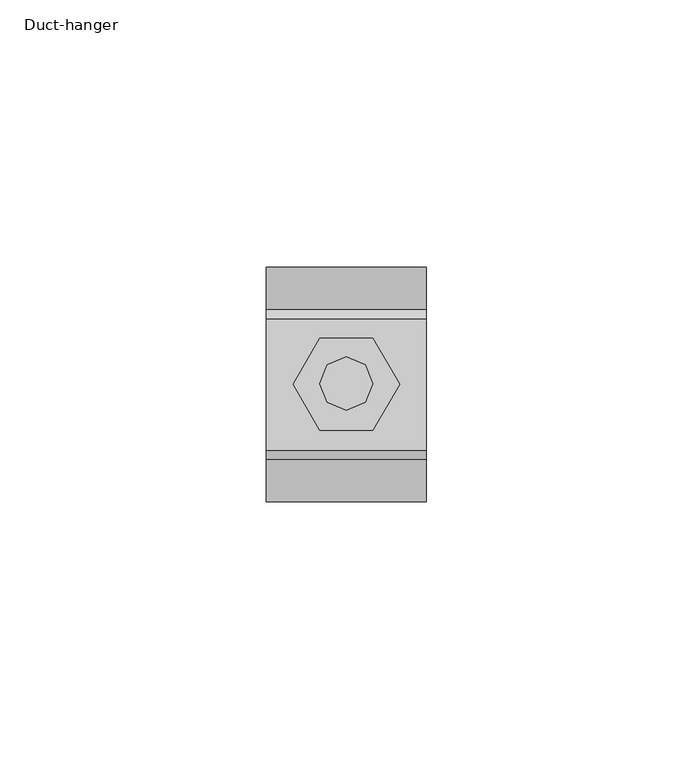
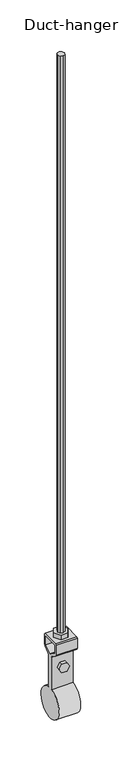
"""IFC4 building model written with IfcOpenShell, lengths in millimetres: proxy geometry, Duct-hanger : Φ44."""

from ifc_helpers import new_model, si_unit, point, frame, frame_2d, origin, place, context, project, spatial, polyline, circle_curve, trimmed, segment, composite_curve, outline, extrude, source, transform, mapped, element, save


def duct_hanger_ff72c5ab(model_context):
    return source(origin(), model_context, "Body", "SweptSolid", [
        extrude(outline(polyline([(3.5351563, 3.5351563), (5.0003052, 0.0), (3.5351563, -3.5351563), (0.0, -5.0), (-3.5354614, -3.5351563), (-5.0, 0.0), (-3.5354614, 3.5351563), (0.0, 5.0), (3.5351563, 3.5351563)])), frame((0.0, 0.0, -858.4967567), z_axis=(0.0, 0.0, 1.0), x_axis=(1.0, 0.0, 0.0)), (0.0, 0.0, 1.0), 858.4967567),
        extrude(outline(polyline([(5.0, 8.659668), (10.0, 0.0), (5.0, -8.659668), (-5.0, -8.659668), (-10.0, 0.0), (-5.0, 8.659668), (5.0, 8.659668)])), frame((0.0, 0.0, -858.4967567), z_axis=(0.0, 0.0, 1.0), x_axis=(1.0, 0.0, 0.0)), (0.0, 0.0, 1.0), 6.6101074),
        extrude(outline(polyline([(-895.5120864, -3.5931396), (-901.7355361, -7.1862793), (-907.9589859, -3.5931396), (-907.9589859, 3.5931396), (-901.7355361, 7.1862793), (-895.5120864, 3.5931396), (-895.5120864, -3.5931396)])), frame((0.0, -8.2446289, 0.0), z_axis=(0.0, 1.0, 0.0), x_axis=(0.0, 0.0, 1.0)), (0.0, 0.0, 1.0), 16.4892578),
        extrude(outline(composite_curve([segment(polyline([(14.0234375, -860.1654579), (14.0234375, -874.8151161), (12.8845215, -876.8814613), (4.6337891, -882.089286), (3.494873, -884.1562416), (3.494873, -931.7355361)]), True, "CONTINUOUS"), segment(trimmed(circle_curve(frame_2d((0.0, -953.4561683)), 22.0), [point((3.494873, -931.7355361))], [point((-3.494873, -931.7355361))], False, "CARTESIAN"), True, "CONTINUOUS"), segment(polyline([(-3.494873, -931.7355361), (-3.494873, -884.1562416), (-4.6337891, -882.089286), (-12.8845215, -876.8814613), (-14.0234375, -874.8151161), (-14.0234375, -860.1654579), (-12.3547363, -858.4967567), (12.3547363, -858.4967567), (14.0234375, -860.1654579)]), True, "CONTINUOUS")], self_intersect=False), holes=[polyline([(0.0, -880.763133), (10.7531738, -873.976493), (10.7531738, -861.7502357), (-10.7531738, -861.7502357), (-10.7531738, -873.976493), (0.0, -880.763133)])]), frame((-15.0, 0.0, 0.0), z_axis=(1.0, 0.0, 0.0), x_axis=(0.0, 1.0, 0.0)), (0.0, 0.0, 1.0), 30.0),
    ])


if __name__ == "__main__":
    model = new_model("IFC4")
    model_context = context("Model", 3, world=origin())
    ifc_project = project(units=[si_unit("LENGTHUNIT", "METRE", prefix="MILLI")], contexts=[model_context])
    site = spatial("IfcSite", under=ifc_project)
    building = spatial("IfcBuilding", under=site)
    placement = place(None, origin())
    duct_hanger_shape = duct_hanger_ff72c5ab(model_context)
    element("IfcBuildingElementProxy", 1, Name="Duct-hanger : Φ44", ObjectType="Duct-hanger : Φ44", at=placement, inside=building, context=model_context, shape_type="MappedRepresentation", body=[
        mapped(duct_hanger_shape, transform((0.0, 0.0, 0.0), x_axis=(1.0, 0.0, 0.0), y_axis=(0.0, 1.0, 0.0), z_axis=(0.0, 0.0, 1.0))),
    ])
    save(model, "model.ifc")
